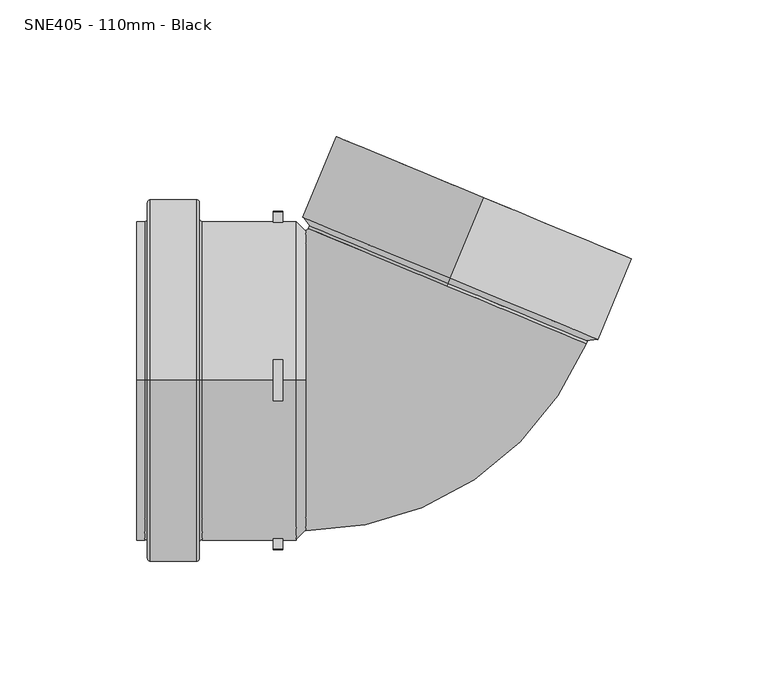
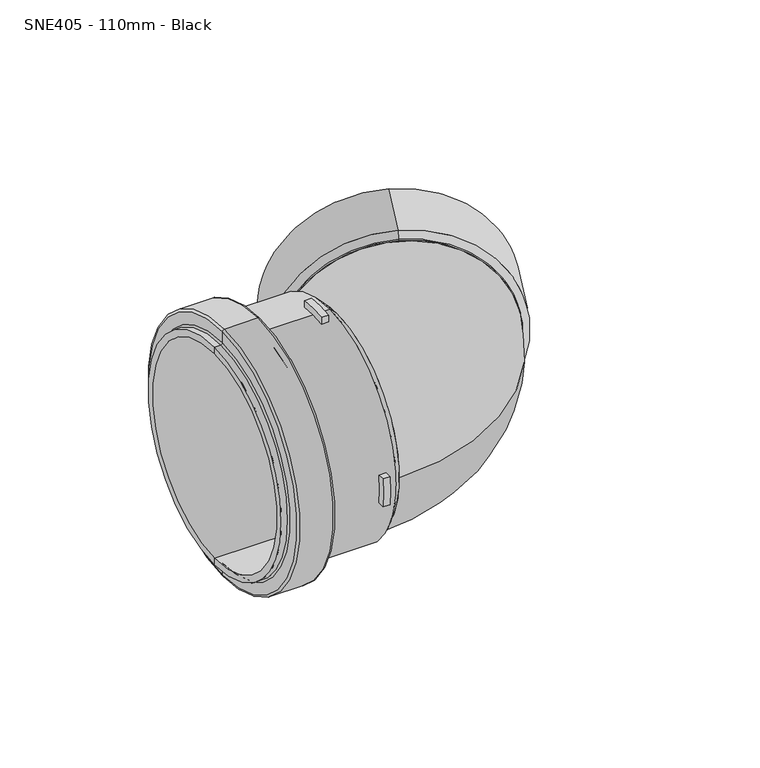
"""IFC4 building model written with IfcOpenShell, lengths in millimetres: pipe fitting geometry, MarleyPlumbingAndDrainage_PipeFitting_OffsetBend67-5 : SNE405 - 110mm - Black."""

from ifc_helpers import new_model, si_unit, point, frame, origin, origin_2d, place, context, project, spatial, polyline, circle_curve, ellipse_curve, trimmed, segment, composite_curve, outline, extrude, source, transform, mapped, element, save
from ifc_brep_helpers import plane_surface, cylinder_surface, revolved_surface, advanced_brep


def sne405_110mm_black_bdd464f6(model_context):
    return source(origin(), model_context, "Body", "SolidModel", [
        advanced_brep(
        [(13.9005123, 37.3413664, -55.0), (13.9005123, 37.3413664, 55.0), (26.1463822, 66.9055114, 55.0), (26.1463822, 66.9055114, -55.0), (13.9005123, 37.3413664, 0.0), (12.752462, 34.5697278, -55.0), (12.752462, 34.5697278, 55.0), (12.752462, 34.5697278, 0.0), (13.1351455, 35.4936073, -55.0), (13.1351455, 35.4936073, 55.0), (13.9005123, 37.3413664, -58.5), (13.9005123, 37.3413664, 58.5), (26.1463822, 66.9055114, -58.5), (26.1463822, 66.9055114, 58.5)],
        [
            (0, 1, circle_curve(frame((13.9005123, 37.3413664, 0.0), z_axis=(-0.3826834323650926, -0.9238795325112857, 0.0), x_axis=(0.0, 0.0, 1.0000000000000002)), 55.0)),
            (1, 2),
            (2, 3, circle_curve(frame((26.1463822, 66.9055114, 0.0), z_axis=(0.3826834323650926, 0.9238795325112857, 0.0), x_axis=(0.0, 0.0, 1.0000000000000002)), 55.0)),
            (3, 0),
            (1, 0, circle_curve(frame((13.9005123, 37.3413664, 0.0), z_axis=(-0.3826834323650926, -0.9238795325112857, 0.0), x_axis=(0.0, 0.0, 1.0000000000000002)), 55.0)),
            (3, 2, circle_curve(frame((26.1463822, 66.9055114, 0.0), z_axis=(0.3826834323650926, 0.9238795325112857, 0.0), x_axis=(0.0, 0.0, 1.0000000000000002)), 55.0)),
            (4, 1),
            (0, 4),
            (5, 6, circle_curve(frame((12.752462, 34.5697278, 0.0), z_axis=(-0.3826834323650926, -0.9238795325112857, 0.0), x_axis=(0.0, 0.0, 1.0000000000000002)), 55.0)),
            (6, 7),
            (7, 5),
            (6, 5, circle_curve(frame((12.752462, 34.5697278, 0.0), z_axis=(-0.3826834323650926, -0.9238795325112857, 0.0), x_axis=(0.0, 0.0, 1.0000000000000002)), 55.0)),
            (8, 9, circle_curve(frame((13.1351455, 35.4936073, 0.0), z_axis=(-0.3826834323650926, -0.9238795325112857, 0.0), x_axis=(0.0, 0.0, 1.0000000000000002)), 55.0)),
            (9, 6),
            (5, 8),
            (9, 8, circle_curve(frame((13.1351455, 35.4936073, 0.0), z_axis=(-0.3826834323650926, -0.9238795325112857, 0.0), x_axis=(0.0, 0.0, 1.0000000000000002)), 55.0)),
            (10, 11, circle_curve(frame((13.9005123, 37.3413664, 0.0), z_axis=(-0.3826834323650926, -0.9238795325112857, 0.0), x_axis=(0.0, 0.0, 1.0000000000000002)), 58.5)),
            (11, 9),
            (8, 10),
            (11, 10, circle_curve(frame((13.9005123, 37.3413664, 0.0), z_axis=(-0.3826834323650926, -0.9238795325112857, 0.0), x_axis=(0.0, 0.0, 1.0000000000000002)), 58.5)),
            (12, 13, circle_curve(frame((26.1463822, 66.9055114, 0.0), z_axis=(-0.3826834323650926, -0.9238795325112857, 0.0), x_axis=(0.0, 0.0, 1.0000000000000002)), 58.5)),
            (13, 11),
            (10, 12),
            (13, 12, circle_curve(frame((26.1463822, 66.9055114, 0.0), z_axis=(-0.3826834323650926, -0.9238795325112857, 0.0), x_axis=(0.0, 0.0, 1.0000000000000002)), 58.5)),
            (2, 13),
            (12, 3),
        ],
        [
            revolved_surface(polyline([(26.146382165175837, 66.90551141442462, 55.000000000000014), (13.900512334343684, 37.34136638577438, 55.000000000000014)]), (10.3942792, 28.8765708, 0.0), (0.3826834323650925, 0.9238795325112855, 0.0)),
            plane_surface(frame((13.9005123, 37.3413664, 0.0), z_axis=(0.38268343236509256, 0.9238795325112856, 0.0), x_axis=(0.0, 0.0, 1.0))),
            plane_surface(frame((12.752462, 34.5697278, 0.0), z_axis=(-0.38268343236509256, -0.9238795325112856, 0.0), x_axis=(0.0, 0.0, 1.0))),
            cylinder_surface(frame((10.3942792, 28.8765708, 0.0), z_axis=(0.3826834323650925, 0.9238795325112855, 0.0), x_axis=(0.0, 0.0, 1.0000000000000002)), 55.0),
            revolved_surface(polyline([(13.1351455, 35.4936073, 55.0), (13.9005123, 37.3413664, 58.5)]), (10.3942792, 28.8765708, 0.0), (0.3826834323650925, 0.9238795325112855, 0.0)),
            cylinder_surface(frame((10.3942792, 28.8765708, 0.0), z_axis=(0.3826834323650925, 0.9238795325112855, 0.0), x_axis=(0.0, 0.0, 1.0000000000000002)), 58.5),
            plane_surface(frame((26.1463822, 66.9055114, 0.0), z_axis=(0.38268343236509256, 0.9238795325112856, 0.0), x_axis=(0.0, 0.0, 1.0))),
        ],
        [
            (0, [[1, 2, 3, 4]]),
            (0, [[5, -4, 6, -2]]),
            (1, [[7, -1, 8]]),
            (1, [[-8, -5, -7]]),
            (2, [[9, 10, 11]]),
            (2, [[12, -11, -10]]),
            (3, [[13, 14, -9, 15]]),
            (3, [[16, -15, -12, -14]]),
            (4, [[17, 18, -13, 19]]),
            (4, [[20, -19, -16, -18]]),
            (5, [[21, 22, -17, 23]]),
            (5, [[24, -23, -20, -22]]),
            (6, [[-3, 25, -21, 26]]),
            (6, [[-6, -26, -24, -25]]),
        ],
    ),
        extrude(outline(composite_curve([segment(trimmed(circle_curve(origin_2d(), 58.5), [point((-7.5, -58.0172388))], [point((7.5, -58.0172388))], True, "CARTESIAN"), True, "CONTINUOUS"), segment(polyline([(7.5, -58.0172388), (7.5, -61.5446992)]), True, "CONTINUOUS"), segment(trimmed(circle_curve(origin_2d(), 62.0), [point((7.5, -61.5446992))], [point((-7.5, -61.5446992))], False, "CARTESIAN"), True, "CONTINUOUS"), segment(polyline([(-7.5, -61.5446992), (-7.5, -58.0172388)]), True, "CONTINUOUS")], self_intersect=False)), frame((-50.9847918, 0.0, 0.0), z_axis=(1.0, 0.0, 0.0), x_axis=(0.0, 1.0, 0.0)), (0.0, 0.0, 1.0), 3.5),
        extrude(outline(composite_curve([segment(trimmed(circle_curve(origin_2d(), 58.5), [point((7.5, 58.0172388))], [point((-7.5, 58.0172388))], True, "CARTESIAN"), True, "CONTINUOUS"), segment(polyline([(-7.5, 58.0172388), (-7.5, 61.5446992)]), True, "CONTINUOUS"), segment(trimmed(circle_curve(origin_2d(), 62.0), [point((-7.5, 61.5446992))], [point((7.5, 61.5446992))], False, "CARTESIAN"), True, "CONTINUOUS"), segment(polyline([(7.5, 61.5446992), (7.5, 58.0172388)]), True, "CONTINUOUS")], self_intersect=False)), frame((-50.9847918, 0.0, 0.0), z_axis=(1.0, 0.0, 0.0), x_axis=(0.0, 1.0, 0.0)), (0.0, 0.0, 1.0), 3.5),
        extrude(outline(composite_curve([segment(trimmed(circle_curve(origin_2d(), 58.5), [point((-58.0172388, 7.5))], [point((-58.0172388, -7.5))], True, "CARTESIAN"), True, "CONTINUOUS"), segment(polyline([(-58.0172388, -7.5), (-61.5446992, -7.5)]), True, "CONTINUOUS"), segment(trimmed(circle_curve(origin_2d(), 62.0), [point((-61.5446992, -7.5))], [point((-61.5446992, 7.5))], False, "CARTESIAN"), True, "CONTINUOUS"), segment(polyline([(-61.5446992, 7.5), (-58.0172388, 7.5)]), True, "CONTINUOUS")], self_intersect=False)), frame((-50.9847918, 0.0, 0.0), z_axis=(1.0, 0.0, 0.0), x_axis=(0.0, 1.0, 0.0)), (0.0, 0.0, 1.0), 3.5),
        extrude(outline(composite_curve([segment(trimmed(circle_curve(origin_2d(), 58.5), [point((58.0172388, -7.5))], [point((58.0172388, 7.5))], True, "CARTESIAN"), True, "CONTINUOUS"), segment(polyline([(58.0172388, 7.5), (61.5446992, 7.5)]), True, "CONTINUOUS"), segment(trimmed(circle_curve(origin_2d(), 62.0), [point((61.5446992, 7.5))], [point((61.5446992, -7.5))], False, "CARTESIAN"), True, "CONTINUOUS"), segment(polyline([(61.5446992, -7.5), (58.0172388, -7.5)]), True, "CONTINUOUS")], self_intersect=False)), frame((-50.9847918, 0.0, 0.0), z_axis=(1.0, 0.0, 0.0), x_axis=(0.0, 1.0, 0.0)), (0.0, 0.0, 1.0), 3.5),
        advanced_brep(
        [(-100.9847918, 0.0, 58.5), (-100.9847918, 0.0, -58.5), (-97.9912889, 0.0, -58.5), (-97.9912889, 0.0, 58.5), (-100.9847918, 0.0, 55.0), (-100.9847918, 0.0, -55.0), (-42.4847918, 0.0, 55.0), (-42.4847918, 0.0, -55.0), (-42.4847918, 0.0, 0.0), (-42.4847918, 0.0, 58.5), (-42.4847918, 0.0, -58.5), (-38.9847918, 0.0, -55.0), (-38.9847918, 0.0, 55.0), (-77.0105402, 0.0, 58.5), (-77.0105402, 0.0, -58.5), (-77.9847918, 0.0, 59.4742516), (-77.9847918, 0.0, -59.4742516), (-77.9847918, 0.0, 65.5187521), (-77.9847918, 0.0, -65.5187521), (-78.9660397, 0.0, 66.5), (-78.9660397, 0.0, -66.5), (-95.9408605, 0.0, 66.5), (-95.9408605, 0.0, -66.5), (-96.9847918, 0.0, 65.4560687), (-96.9847918, 0.0, -65.4560687), (-96.9847918, 0.0, 59.5064971), (-96.9847918, 0.0, -59.5064971), (-38.9847918, 0.0, 0.0)],
        [
            (0, 1, circle_curve(frame((-100.9847918, 0.0, 0.0), z_axis=(1.0, 0.0, 0.0), x_axis=(0.0, 0.0, -1.0)), 58.5)),
            (1, 2),
            (2, 3, circle_curve(frame((-97.9912889, 0.0, 0.0), z_axis=(-1.0, 0.0, 0.0), x_axis=(0.0, 0.0, -1.0)), 58.5)),
            (3, 0),
            (1, 0, circle_curve(frame((-100.9847918, 0.0, 0.0), z_axis=(1.0, 0.0, 0.0), x_axis=(0.0, 0.0, -1.0)), 58.5)),
            (3, 2, circle_curve(frame((-97.9912889, 0.0, 0.0), z_axis=(-1.0, 0.0, 0.0), x_axis=(0.0, 0.0, -1.0)), 58.5)),
            (4, 5, circle_curve(frame((-100.9847918, 0.0, 0.0), z_axis=(1.0, 0.0, 0.0), x_axis=(0.0, 0.0, -1.0)), 55.0)),
            (5, 1),
            (0, 4),
            (5, 4, circle_curve(frame((-100.9847918, 0.0, 0.0), z_axis=(1.0, 0.0, 0.0), x_axis=(0.0, 0.0, -1.0)), 55.0)),
            (6, 7, circle_curve(frame((-42.4847918, 0.0, 0.0), z_axis=(1.0, 0.0, 0.0), x_axis=(0.0, 0.0, -1.0)), 55.0)),
            (7, 5),
            (4, 6),
            (7, 6, circle_curve(frame((-42.4847918, 0.0, 0.0), z_axis=(1.0, 0.0, 0.0), x_axis=(0.0, 0.0, -1.0)), 55.0)),
            (8, 7),
            (6, 8),
            (9, 10, circle_curve(frame((-42.4847918, 0.0, 0.0), z_axis=(1.0, 0.0, 0.0), x_axis=(0.0, 0.0, -1.0)), 58.5)),
            (10, 11),
            (11, 12, circle_curve(frame((-38.9847918, 0.0, 0.0), z_axis=(-1.0, 0.0, 0.0), x_axis=(0.0, 0.0, -1.0)), 55.0)),
            (12, 9),
            (10, 9, circle_curve(frame((-42.4847918, 0.0, 0.0), z_axis=(1.0, 0.0, 0.0), x_axis=(0.0, 0.0, -1.0)), 58.5)),
            (12, 11, circle_curve(frame((-38.9847918, 0.0, 0.0), z_axis=(-1.0, 0.0, 0.0), x_axis=(0.0, 0.0, -1.0)), 55.0)),
            (13, 14, circle_curve(frame((-77.0105402, 0.0, 0.0), z_axis=(1.0, 0.0, 0.0), x_axis=(0.0, 0.0, -1.0)), 58.5)),
            (14, 10),
            (9, 13),
            (14, 13, circle_curve(frame((-77.0105402, 0.0, 0.0), z_axis=(1.0, 0.0, 0.0), x_axis=(0.0, 0.0, -1.0)), 58.5)),
            (15, 16, circle_curve(frame((-77.9847918, 0.0, 0.0), z_axis=(1.0, 0.0, 0.0), x_axis=(0.0, 0.0, -1.0)), 59.4742516)),
            (16, 14, circle_curve(frame((-77.0105402, 0.0, -59.4742516), z_axis=(0.0, 1.0, 0.0), x_axis=(1.0, 0.0, 0.0)), 0.9742516)),
            (13, 15, circle_curve(frame((-77.0105402, 0.0, 59.4742516), z_axis=(0.0, 1.0, 0.0), x_axis=(1.0, 0.0, 0.0)), 0.9742516)),
            (16, 15, circle_curve(frame((-77.9847918, 0.0, 0.0), z_axis=(1.0, 0.0, 0.0), x_axis=(0.0, 0.0, -1.0)), 59.4742516)),
            (17, 18, circle_curve(frame((-77.9847918, 0.0, 0.0), z_axis=(1.0, 0.0, 0.0), x_axis=(0.0, 0.0, -1.0)), 65.5187521)),
            (18, 16),
            (15, 17),
            (18, 17, circle_curve(frame((-77.9847918, 0.0, 0.0), z_axis=(1.0, 0.0, 0.0), x_axis=(0.0, 0.0, -1.0)), 65.5187521)),
            (19, 20, circle_curve(frame((-78.9660397, 0.0, 0.0), z_axis=(1.0, 0.0, 0.0), x_axis=(0.0, 0.0, -1.0)), 66.5)),
            (20, 18, circle_curve(frame((-78.9660397, 0.0, -65.5187521), z_axis=(0.0, -1.0, 0.0), x_axis=(1.0, 0.0, 0.0)), 0.9812479)),
            (17, 19, circle_curve(frame((-78.9660397, 0.0, 65.5187521), z_axis=(0.0, -1.0, 0.0), x_axis=(1.0, 0.0, 0.0)), 0.9812479)),
            (20, 19, circle_curve(frame((-78.9660397, 0.0, 0.0), z_axis=(1.0, 0.0, 0.0), x_axis=(0.0, 0.0, -1.0)), 66.5)),
            (21, 22, circle_curve(frame((-95.9408605, 0.0, 0.0), z_axis=(1.0, 0.0, 0.0), x_axis=(0.0, 0.0, -1.0)), 66.5)),
            (22, 20),
            (19, 21),
            (22, 21, circle_curve(frame((-95.9408605, 0.0, 0.0), z_axis=(1.0, 0.0, 0.0), x_axis=(0.0, 0.0, -1.0)), 66.5)),
            (23, 24, circle_curve(frame((-96.9847918, 0.0, 0.0), z_axis=(1.0, 0.0, 0.0), x_axis=(0.0, 0.0, -1.0)), 65.4560687)),
            (24, 22, circle_curve(frame((-95.9408605, 0.0, -65.4560687), z_axis=(0.0, -1.0, 0.0), x_axis=(1.0, 0.0, 0.0)), 1.0439313)),
            (21, 23, circle_curve(frame((-95.9408605, 0.0, 65.4560687), z_axis=(0.0, -1.0, 0.0), x_axis=(1.0, 0.0, 0.0)), 1.0439313)),
            (24, 23, circle_curve(frame((-96.9847918, 0.0, 0.0), z_axis=(1.0, 0.0, 0.0), x_axis=(0.0, 0.0, -1.0)), 65.4560687)),
            (25, 26, circle_curve(frame((-96.9847918, 0.0, 0.0), z_axis=(1.0, 0.0, 0.0), x_axis=(0.0, 0.0, -1.0)), 59.5064971)),
            (26, 24),
            (23, 25),
            (26, 25, circle_curve(frame((-96.9847918, 0.0, 0.0), z_axis=(1.0, 0.0, 0.0), x_axis=(0.0, 0.0, -1.0)), 59.5064971)),
            (2, 26, circle_curve(frame((-97.9912889, 0.0, -59.5064971), z_axis=(0.0, 1.0, 0.0), x_axis=(1.0, 0.0, 0.0)), 1.0064971)),
            (25, 3, circle_curve(frame((-97.9912889, 0.0, 59.5064971), z_axis=(0.0, 1.0, 0.0), x_axis=(1.0, 0.0, 0.0)), 1.0064971)),
            (11, 27),
            (27, 12),
        ],
        [
            cylinder_surface(frame((-140.9847918, 0.0, 0.0), z_axis=(-1.0, 0.0, 0.0), x_axis=(0.0, 0.0, -1.0)), 58.5),
            plane_surface(frame((-100.9847918, 0.0, 0.0), z_axis=(-1.0, 0.0, 0.0), x_axis=(0.0, 0.0, -1.0))),
            revolved_surface(polyline([(-100.9847918, 0.0, -55.0), (-42.48479180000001, 0.0, -55.0)]), (-140.9847918, 0.0, 0.0), (-1.0, 0.0, 0.0)),
            plane_surface(frame((-42.4847918, 0.0, 0.0), z_axis=(-1.0, 0.0, 0.0), x_axis=(0.0, 0.0, -1.0))),
            revolved_surface(polyline([(-38.9847918, 0.0, -55.0), (-42.4847918, 0.0, -58.5)]), (-140.9847918, 0.0, 0.0), (-1.0, 0.0, 0.0)),
            revolved_surface(trimmed(ellipse_curve(frame((-77.0105402, 0.0, -59.4742516), z_axis=(0.0, -1.0, 0.0), x_axis=(1.0, 0.0, 0.0)), 0.9742516, 0.9742516), [point((-77.0105402, 0.0, -58.5))], [point((-77.9847918, 0.0, -59.4742516))], True, "CARTESIAN"), (-140.9847918, 0.0, 0.0), (-1.0, 0.0, 0.0)),
            plane_surface(frame((-77.9847918, 0.0, 0.0), z_axis=(1.0, 0.0, 0.0), x_axis=(0.0, 0.0, -1.0))),
            revolved_surface(trimmed(ellipse_curve(frame((-78.9660397, 0.0, -65.5187521), z_axis=(0.0, 1.0, 0.0), x_axis=(1.0, 0.0, 0.0)), 0.9812479, 0.9812479), [point((-77.9847918, 0.0, -65.5187521))], [point((-78.9660397, 0.0, -66.5))], True, "CARTESIAN"), (-140.9847918, 0.0, 0.0), (-1.0, 0.0, 0.0)),
            cylinder_surface(frame((-140.9847918, 0.0, 0.0), z_axis=(-1.0, 0.0, 0.0), x_axis=(0.0, 0.0, -1.0)), 66.5),
            revolved_surface(trimmed(ellipse_curve(frame((-95.9408605, 0.0, -65.4560687), z_axis=(0.0, 1.0, 0.0), x_axis=(1.0, 0.0, 0.0)), 1.0439313, 1.0439313), [point((-95.9408605, 0.0, -66.5))], [point((-96.9847918, 0.0, -65.4560687))], True, "CARTESIAN"), (-140.9847918, 0.0, 0.0), (-1.0, 0.0, 0.0)),
            plane_surface(frame((-96.9847918, 0.0, 0.0), z_axis=(-1.0, 0.0, 0.0), x_axis=(0.0, 0.0, -1.0))),
            revolved_surface(trimmed(ellipse_curve(frame((-97.9912889, 0.0, -59.5064971), z_axis=(0.0, -1.0, 0.0), x_axis=(1.0, 0.0, 0.0)), 1.0064971, 1.0064971), [point((-96.9847918, 0.0, -59.5064971))], [point((-97.9912889, 0.0, -58.5))], True, "CARTESIAN"), (-140.9847918, 0.0, 0.0), (-1.0, 0.0, 0.0)),
            plane_surface(frame((-38.9847918, 0.0, 0.0), z_axis=(1.0, 0.0, 0.0), x_axis=(0.0, 0.0, -1.0))),
        ],
        [
            (0, [[1, 2, 3, 4]]),
            (0, [[5, -4, 6, -2]]),
            (1, [[7, 8, -1, 9]]),
            (1, [[10, -9, -5, -8]]),
            (2, [[11, 12, -7, 13]]),
            (2, [[14, -13, -10, -12]]),
            (3, [[15, -11, 16]]),
            (3, [[-16, -14, -15]]),
            (4, [[17, 18, 19, 20]]),
            (4, [[21, -20, 22, -18]]),
            (0, [[23, 24, -17, 25]]),
            (0, [[26, -25, -21, -24]]),
            (5, [[27, 28, -23, 29]]),
            (5, [[30, -29, -26, -28]]),
            (6, [[31, 32, -27, 33]]),
            (6, [[34, -33, -30, -32]]),
            (7, [[35, 36, -31, 37]]),
            (7, [[38, -37, -34, -36]]),
            (8, [[39, 40, -35, 41]]),
            (8, [[42, -41, -38, -40]]),
            (9, [[43, 44, -39, 45]]),
            (9, [[46, -45, -42, -44]]),
            (10, [[47, 48, -43, 49]]),
            (10, [[50, -49, -46, -48]]),
            (11, [[-3, 51, -47, 52]]),
            (11, [[-6, -52, -50, -51]]),
            (12, [[-19, 53, 54]]),
            (12, [[-22, -54, -53]]),
        ],
    ),
        advanced_brep(
        [(-38.9847918, -55.0, 0.0), (-38.9847918, 55.0, 0.0), (63.5658363, 13.522139, 0.0), (-38.0609123, 55.6173166, 0.0)],
        [
            (0, 1, circle_curve(frame((-38.9847918, 0.0, 0.0), z_axis=(-1.0, 0.0, 0.0), x_axis=(0.0, 1.0, 0.0)), 55.0)),
            (1, 0, circle_curve(frame((-38.9847918, 0.0, 0.0), z_axis=(-1.0, 0.0, 0.0), x_axis=(0.0, 1.0, 0.0)), 55.0)),
            (2, 3, circle_curve(frame((12.752462, 34.5697278, 0.0), z_axis=(0.3826834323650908, 0.9238795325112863, 0.0), x_axis=(-0.9238795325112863, 0.3826834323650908, 0.0)), 55.0)),
            (3, 2, circle_curve(frame((12.752462, 34.5697278, 0.0), z_axis=(0.3826834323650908, 0.9238795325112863, 0.0), x_axis=(-0.9238795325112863, 0.3826834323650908, 0.0)), 55.0)),
            (3, 1, circle_curve(frame((-38.9847918, 56.0, 0.0), z_axis=(0.0, 0.0, -1.0), x_axis=(0.0, -1.0, 0.0)), 1.0)),
            (0, 2, circle_curve(frame((-38.9847918, 56.0, 0.0), z_axis=(0.0, 0.0, 1.0), x_axis=(0.0, -1.0, 0.0)), 111.0)),
        ],
        [
            plane_surface(frame((-38.9847918, 0.0, 0.0), z_axis=(-1.0, 0.0, 0.0), x_axis=(0.0, 0.0, 1.0))),
            plane_surface(frame((12.752462, 34.5697278, 0.0), z_axis=(0.3826834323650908, 0.9238795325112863, 0.0), x_axis=(0.0, 0.0, 1.0))),
            revolved_surface(trimmed(ellipse_curve(frame((-38.9847918, 0.0, 0.0), z_axis=(-1.0, 0.0, 0.0), x_axis=(0.0, 1.0, 0.0)), 55.0, 55.0), [point((-38.9847918, -55.0, 0.0))], [point((-38.9847918, 55.0, 0.0))], True, "CARTESIAN"), (-38.9847918, 56.0, 0.0), (0.0, 0.0, 1.0)),
            revolved_surface(trimmed(ellipse_curve(frame((-38.9847918, 0.0, 0.0), z_axis=(-1.0, 0.0, 0.0), x_axis=(0.0, 1.0, 0.0)), 55.0, 55.0), [point((-38.9847918, 55.0, 0.0))], [point((-38.9847918, -55.0, 0.0))], True, "CARTESIAN"), (-38.9847918, 56.0, 0.0), (0.0, 0.0, 1.0)),
        ],
        [
            (0, [[1, 2]]),
            (1, [[3, 4]]),
            (2, [[5, -1, 6, -4]]),
            (3, [[-6, -2, -5, -3]]),
        ],
    ),
    ])


if __name__ == "__main__":
    model = new_model("IFC4")
    model_context = context("Model", 3, world=origin())
    ifc_project = project(units=[si_unit("LENGTHUNIT", "METRE", prefix="MILLI")], contexts=[model_context])
    site = spatial("IfcSite", under=ifc_project)
    building = spatial("IfcBuilding", under=site)
    placement = place(None, origin())
    sne405_110mm_black_shape = sne405_110mm_black_bdd464f6(model_context)
    element("IfcPipeFitting", 1, ObjectType="MarleyPlumbingAndDrainage_PipeFitting_OffsetBend67-5 : SNE405 - 110mm - Black", at=placement, inside=building, context=model_context, shape_type="MappedRepresentation", body=[
        mapped(sne405_110mm_black_shape, transform((0.0, 0.0, 0.0), x_axis=(1.0, 0.0, 0.0), y_axis=(0.0, 1.0, 0.0), z_axis=(0.0, 0.0, 1.0))),
    ])
    save(model, "model.ifc")
